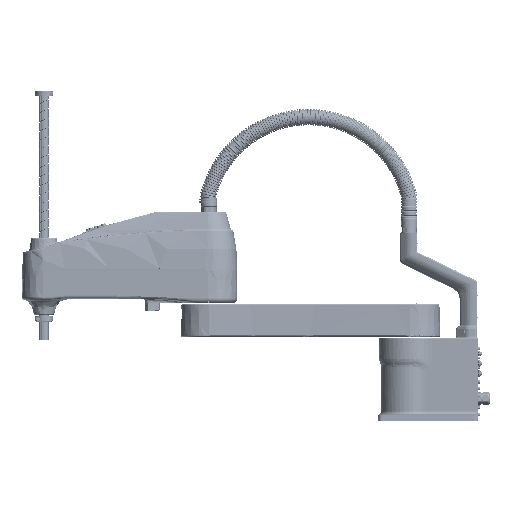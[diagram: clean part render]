
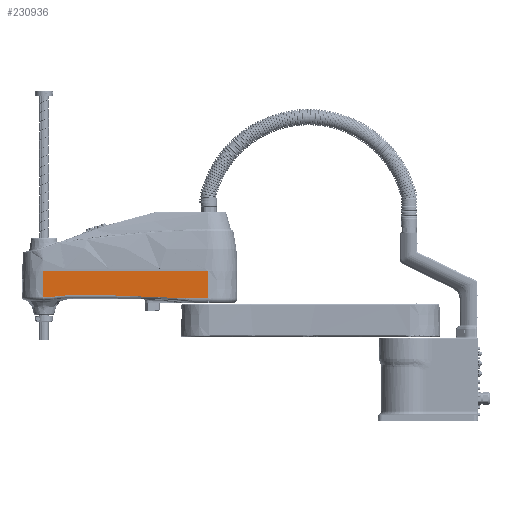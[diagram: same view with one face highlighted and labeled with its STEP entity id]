
A CAD part, top view. The second image highlights one B-rep face of the part: STEP entity #230936.
In plain terms, the highlighted planar face has unit normal (-0.04, 0.018, 0.999).
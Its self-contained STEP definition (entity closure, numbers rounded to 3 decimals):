
#2898 = EDGE_LOOP ( 'NONE', ( #200501, #78546, #252948, #350258, #146307, #9504, #27541, #104540, #277760 ) ) ;
#9504 = ORIENTED_EDGE ( 'NONE', *, *, #294165, .T. ) ;
#10993 = CARTESIAN_POINT ( 'NONE',  ( -993.667, 107.406, 382.074 ) ) ;
#17844 = CARTESIAN_POINT ( 'NONE',  ( -698.159, 109.839, 393.861 ) ) ;
#27541 = ORIENTED_EDGE ( 'NONE', *, *, #78969, .T. ) ;
#30216 = B_SPLINE_CURVE_WITH_KNOTS ( 'NONE', 3,
 ( #34774, #340836, #10993, #125346, #231272, #257004, #92779, #65521 ),
 .UNSPECIFIED., .F., .F.,
 ( 4, 2, 2, 4 ),
 ( 0., 0.007, 0.013, 0.026 ),
 .UNSPECIFIED. ) ;
#34774 = CARTESIAN_POINT ( 'NONE',  ( -998.072, 107.378, 381.898 ) ) ;
#35352 = LINE ( 'NONE', #312248, #109200 ) ;
#39773 = CARTESIAN_POINT ( 'NONE',  ( -674.35, 108.848, 394.832 ) ) ;
#41571 = CARTESIAN_POINT ( 'NONE',  ( -785.502, 111.439, 390.337 ) ) ;
#56611 = VECTOR ( 'NONE', #124970, 1000. ) ;
#62692 = DIRECTION ( 'NONE',  ( 0.999, 0., 0.04 ) ) ;
#65521 = CARTESIAN_POINT ( 'NONE',  ( -971.643, 107.894, 382.947 ) ) ;
#66203 = DIRECTION ( 'NONE',  ( 0.999, 0., 0.04 ) ) ;
#70125 = VERTEX_POINT ( 'NONE', #197092 ) ;
#78546 = ORIENTED_EDGE ( 'NONE', *, *, #337153, .T. ) ;
#78969 = EDGE_CURVE ( 'NONE', #110243, #161004, #348778, .T. ) ;
#80934 = LINE ( 'NONE', #359825, #286575 ) ;
#85937 = DIRECTION ( 'NONE',  ( -0.001, -1., 0.017 ) ) ;
#86753 = VECTOR ( 'NONE', #123902, 1000. ) ;
#91617 = EDGE_CURVE ( 'NONE', #161004, #178788, #266318, .T. ) ;
#92058 = CARTESIAN_POINT ( 'NONE',  ( -959.885, 109.723, 383.386 ) ) ;
#92779 = CARTESIAN_POINT ( 'NONE',  ( -976.048, 107.951, 382.77 ) ) ;
#96052 = CARTESIAN_POINT ( 'NONE',  ( -690.222, 109.545, 394.184 ) ) ;
#98914 = FACE_OUTER_BOUND ( 'NONE', #2898, .T. ) ;
#104469 = CARTESIAN_POINT ( 'NONE',  ( -951.466, 110.754, 383.705 ) ) ;
#104540 = ORIENTED_EDGE ( 'NONE', *, *, #91617, .T. ) ;
#105797 = VERTEX_POINT ( 'NONE', #208597 ) ;
#109200 = VECTOR ( 'NONE', #332420, 1000. ) ;
#110243 = VERTEX_POINT ( 'NONE', #227314 ) ;
#113355 = CARTESIAN_POINT ( 'NONE',  ( -801.39, 111.439, 389.701 ) ) ;
#116808 = CARTESIAN_POINT ( 'NONE',  ( -548.795, 103.299, 399.955 ) ) ;
#123210 = LINE ( 'NONE', #318439, #56611 ) ;
#123280 = CARTESIAN_POINT ( 'NONE',  ( -737.853, 110.922, 392.253 ) ) ;
#123902 = DIRECTION ( 'NONE',  ( 0.999, 0., 0.04 ) ) ;
#124970 = DIRECTION ( 'NONE',  ( 0.999, 0., 0.04 ) ) ;
#125346 = CARTESIAN_POINT ( 'NONE',  ( -989.262, 107.505, 382.249 ) ) ;
#126808 = CARTESIAN_POINT ( 'NONE',  ( -666.414, 108.445, 395.156 ) ) ;
#128138 = CARTESIAN_POINT ( 'NONE',  ( -948.944, 111.002, 383.802 ) ) ;
#129958 = EDGE_CURVE ( 'NONE', #293732, #353087, #273544, .T. ) ;
#146307 = ORIENTED_EDGE ( 'NONE', *, *, #184579, .T. ) ;
#150683 = CARTESIAN_POINT ( 'NONE',  ( -626.802, 105.666, 396.791 ) ) ;
#155595 = CARTESIAN_POINT ( 'NONE',  ( -941.368, 111.439, 384.097 ) ) ;
#161004 = VERTEX_POINT ( 'NONE', #316061 ) ;
#178788 = VERTEX_POINT ( 'NONE', #250521 ) ;
#181663 = CARTESIAN_POINT ( 'NONE',  ( -611., 104.035, 397.452 ) ) ;
#184579 = EDGE_CURVE ( 'NONE', #192760, #306442, #35352, .T. ) ;
#192760 = VERTEX_POINT ( 'NONE', #262314 ) ;
#195053 = EDGE_CURVE ( 'NONE', #192760, #105797, #123210, .T. ) ;
#197092 = CARTESIAN_POINT ( 'NONE',  ( -548.795, 104.035, 399.942 ) ) ;
#200501 = ORIENTED_EDGE ( 'NONE', *, *, #129958, .T. ) ;
#203245 = CARTESIAN_POINT ( 'NONE',  ( -956.933, 110.092, 383.498 ) ) ;
#208597 = CARTESIAN_POINT ( 'NONE',  ( -548.742, 179.299, 398.629 ) ) ;
#209672 = CARTESIAN_POINT ( 'NONE',  ( -555.007, 104.035, 399.693 ) ) ;
#210164 = CARTESIAN_POINT ( 'NONE',  ( -998.075, 103.299, 381.969 ) ) ;
#214410 = CARTESIAN_POINT ( 'NONE',  ( -801.39, 111.439, 389.701 ) ) ;
#217530 = CARTESIAN_POINT ( 'NONE',  ( -938.835, 111.439, 384.199 ) ) ;
#226683 = VECTOR ( 'NONE', #85937, 1000. ) ;
#227314 = CARTESIAN_POINT ( 'NONE',  ( -971.643, 107.894, 382.947 ) ) ;
#230936 = ADVANCED_FACE ( 'NONE', ( #98914 ), #237466, .T. ) ;
#231272 = CARTESIAN_POINT ( 'NONE',  ( -987.06, 107.575, 382.336 ) ) ;
#233377 = LINE ( 'NONE', #116808, #226683 ) ;
#234568 = CARTESIAN_POINT ( 'NONE',  ( -769.617, 111.346, 390.974 ) ) ;
#237466 = PLANE ( 'NONE',  #269924 ) ;
#240015 = CARTESIAN_POINT ( 'NONE',  ( -642.633, 106.953, 396.135 ) ) ;
#248585 = EDGE_CURVE ( 'NONE', #105797, #70125, #233377, .T. ) ;
#250521 = CARTESIAN_POINT ( 'NONE',  ( -938.835, 111.439, 384.199 ) ) ;
#252948 = ORIENTED_EDGE ( 'NONE', *, *, #248585, .F. ) ;
#257004 = CARTESIAN_POINT ( 'NONE',  ( -980.453, 107.794, 382.596 ) ) ;
#260855 = LINE ( 'NONE', #209672, #86753 ) ;
#262046 = CARTESIAN_POINT ( 'NONE',  ( -618.895, 104.925, 397.12 ) ) ;
#262314 = CARTESIAN_POINT ( 'NONE',  ( -998.022, 179.299, 380.644 ) ) ;
#266318 = B_SPLINE_CURVE_WITH_KNOTS ( 'NONE', 3,
 ( #323357, #104469, #128138, #297910, #155595, #217530 ),
 .UNSPECIFIED., .F., .F.,
 ( 4, 2, 4 ),
 ( 0., 0.008, 0.015 ),
 .UNSPECIFIED. ) ;
#269924 = AXIS2_PLACEMENT_3D ( 'NONE', #210164, #286956, #62692 ) ;
#273544 = B_SPLINE_CURVE_WITH_KNOTS ( 'NONE', 3,
 ( #214410, #41571, #234568, #123280, #325638, #17844, #96052, #39773, #126808, #349408, #240015, #150683, #262046, #181663 ),
 .UNSPECIFIED., .F., .F.,
 ( 4, 2, 2, 2, 2, 2, 4 ),
 ( 0., 0.048, 0.095, 0.119, 0.143, 0.167, 0.191 ),
 .UNSPECIFIED. ) ;
#277760 = ORIENTED_EDGE ( 'NONE', *, *, #353427, .T. ) ;
#286575 = VECTOR ( 'NONE', #66203, 1000. ) ;
#286956 = DIRECTION ( 'NONE',  ( -0.04, 0.017, 0.999 ) ) ;
#293732 = VERTEX_POINT ( 'NONE', #113355 ) ;
#294165 = EDGE_CURVE ( 'NONE', #306442, #110243, #30216, .T. ) ;
#297910 = CARTESIAN_POINT ( 'NONE',  ( -943.896, 111.344, 383.998 ) ) ;
#306442 = VERTEX_POINT ( 'NONE', #329182 ) ;
#312248 = CARTESIAN_POINT ( 'NONE',  ( -998.075, 103.299, 381.969 ) ) ;
#314534 = CARTESIAN_POINT ( 'NONE',  ( -953.98, 110.45, 383.61 ) ) ;
#314588 = CARTESIAN_POINT ( 'NONE',  ( -611., 104.035, 397.452 ) ) ;
#316061 = CARTESIAN_POINT ( 'NONE',  ( -953.98, 110.45, 383.61 ) ) ;
#318439 = CARTESIAN_POINT ( 'NONE',  ( -998.022, 179.299, 380.644 ) ) ;
#323357 = CARTESIAN_POINT ( 'NONE',  ( -953.98, 110.45, 383.61 ) ) ;
#325638 = CARTESIAN_POINT ( 'NONE',  ( -721.973, 110.592, 392.895 ) ) ;
#329182 = CARTESIAN_POINT ( 'NONE',  ( -998.072, 107.378, 381.898 ) ) ;
#332420 = DIRECTION ( 'NONE',  ( -0.001, -1., 0.017 ) ) ;
#337153 = EDGE_CURVE ( 'NONE', #353087, #70125, #260855, .T. ) ;
#338335 = CARTESIAN_POINT ( 'NONE',  ( -968.716, 108.437, 383.055 ) ) ;
#340836 = CARTESIAN_POINT ( 'NONE',  ( -995.87, 107.378, 381.986 ) ) ;
#341905 = CARTESIAN_POINT ( 'NONE',  ( -965.777, 108.896, 383.164 ) ) ;
#348778 = B_SPLINE_CURVE_WITH_KNOTS ( 'NONE', 3,
 ( #357111, #338335, #341905, #92058, #203245, #314534 ),
 .UNSPECIFIED., .F., .F.,
 ( 4, 2, 4 ),
 ( 0., 0.009, 0.018 ),
 .UNSPECIFIED. ) ;
#349408 = CARTESIAN_POINT ( 'NONE',  ( -650.556, 107.497, 395.808 ) ) ;
#350258 = ORIENTED_EDGE ( 'NONE', *, *, #195053, .F. ) ;
#353087 = VERTEX_POINT ( 'NONE', #314588 ) ;
#353427 = EDGE_CURVE ( 'NONE', #178788, #293732, #80934, .T. ) ;
#357111 = CARTESIAN_POINT ( 'NONE',  ( -971.643, 107.894, 382.947 ) ) ;
#359825 = CARTESIAN_POINT ( 'NONE',  ( -998.07, 111.439, 381.827 ) ) ;
